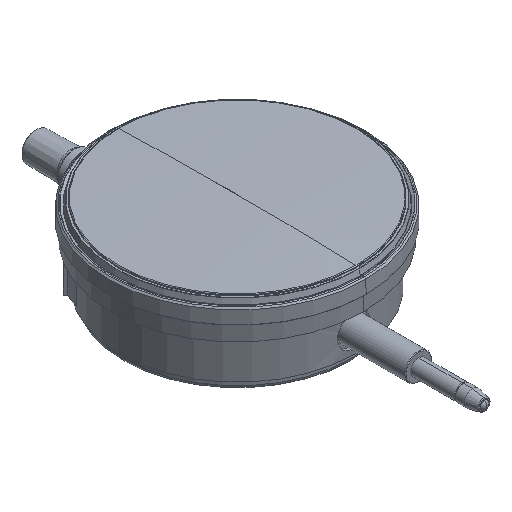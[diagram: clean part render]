
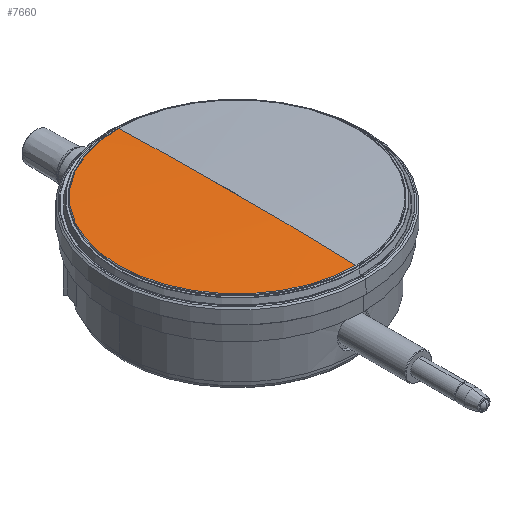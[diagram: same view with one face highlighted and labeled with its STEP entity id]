
A CAD part, isometric view. The second image highlights one B-rep face of the part: STEP entity #7660.
In plain terms, the highlighted spherical face has radius 1100 mm.
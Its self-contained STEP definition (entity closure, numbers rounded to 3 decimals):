
#5390=CARTESIAN_POINT('',(0.,0.,
5.914));
#5400=DIRECTION('',(0.,0.,1.));
#5410=DIRECTION('',(1.,0.,0.));
#5420=AXIS2_PLACEMENT_3D('',#5390,#5400,#5410);
#5430=CIRCLE('',#5420,35.912);
#5440=CARTESIAN_POINT('',(0.,-35.912,
5.914));
#5450=VERTEX_POINT('',#5440);
#5500=CARTESIAN_POINT('',(0.,0.,
-1093.5));
#5510=DIRECTION('',(-1.,0.,0.));
#5520=DIRECTION('',(0.,1.,-0.));
#5530=AXIS2_PLACEMENT_3D('',#5500,#5510,#5520);
#5540=CIRCLE('',#5530,1100.);
#5550=CARTESIAN_POINT('',(0.,0.,
6.5));
#5560=VERTEX_POINT('',#5550);
#5570=EDGE_CURVE('',#5450,#5560,#5540,.T.);
#5590=CARTESIAN_POINT('',(0.,35.912,
5.914));
#5600=VERTEX_POINT('',#5590);
#5610=EDGE_CURVE('',#5560,#5600,#5540,.T.);
#5730=CARTESIAN_POINT('',(-35.912,0.,
5.914));
#5740=VERTEX_POINT('',#5730);
#5750=EDGE_CURVE('',#5600,#5740,#5430,.T.);
#7360=EDGE_CURVE('',#5740,#5450,#5430,.T.);
#7550=CARTESIAN_POINT('',(0.,0.,
-1093.5));
#7560=DIRECTION('',(0.,0.,-1.));
#7570=DIRECTION('',(0.,-1.,0.));
#7580=AXIS2_PLACEMENT_3D('',#7550,#7560,#7570);
#7590=SPHERICAL_SURFACE('',#7580,1100.);
#7600=ORIENTED_EDGE('',*,*,#7360,.T.);
#7610=ORIENTED_EDGE('',*,*,#5750,.T.);
#7620=ORIENTED_EDGE('',*,*,#5610,.T.);
#7630=ORIENTED_EDGE('',*,*,#5570,.T.);
#7640=EDGE_LOOP('',(#7630,#7620,#7610,#7600));
#7650=FACE_OUTER_BOUND('',#7640,.T.);
#7660=ADVANCED_FACE('',(#7650),#7590,.T.);
